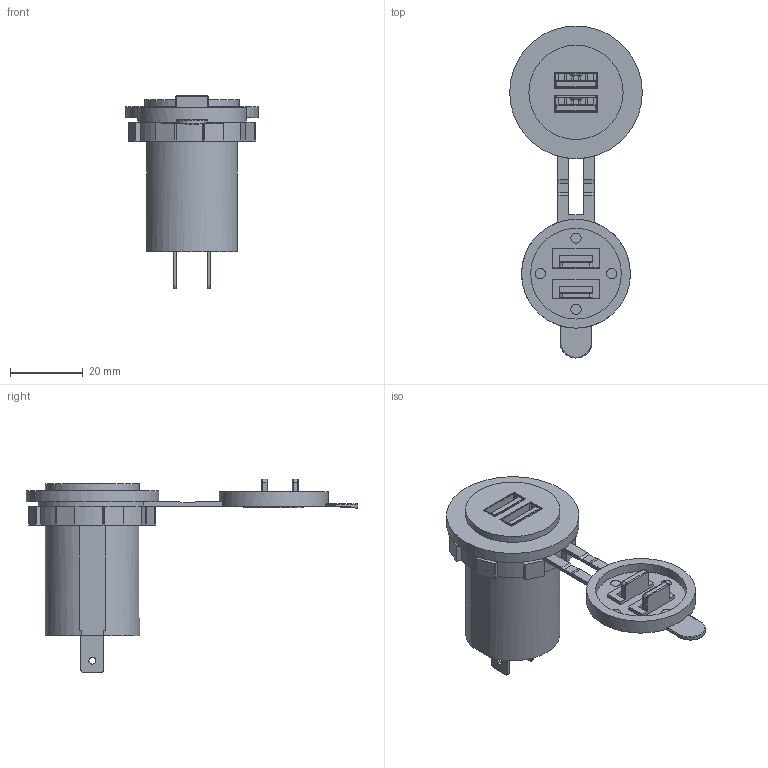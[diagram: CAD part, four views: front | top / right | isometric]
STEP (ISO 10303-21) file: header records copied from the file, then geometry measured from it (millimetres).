
FILE_DESCRIPTION(/* description */ (''),/* implementation_level */ '2;1');
FILE_NAME(/* name */ 'A8-USB2-1-B-4.8A-T.stp',/* time_stamp */ '2025-02-03T13:49:03-08:00',/* author */ ('tylerl'),/* organization */ (''),/* preprocessor_version */ 'ST-DEVELOPER v20',/* originating_system */ 'Autodesk Inventor 2025',/* authorisation */ '');
FILE_SCHEMA (('AUTOMOTIVE_DESIGN { 1 0 10303 214 3 1 1 }'));
Length unit declared in the file: millimetre
Products named in the file (5): A8-USB2-1-B-4.8A-T; Base; USB Port; Ring; Ring_ A8-USB2
Assembly tree (5 placements, depth 2):
  A8-USB2-1-B-4.8A-T
    Base
    USB Port  x2
    Ring
    Ring_ A8-USB2
Bounding box: 36.6 x 91.54 x 53.3 mm (x, y, z)
Volume: 26860.5 mm3; surface area: 15196.8 mm2
Topology: 15 solids, 15 shells, 916 faces, 2549 edges, 1676 vertices
Faces by surface type: plane 686, cylinder 191, bspline 20, torus 13, sphere 6
Full cylindrical faces by diameter (mm): 0.754 x8, 1.75 x4, 1.9 x2, 2.8 x4, 16.7 x1, 25 x1, 26 x2, 28.5 x1, 30 x1, 36.6 x1
Entity records: 22966 total; most frequent: CARTESIAN_POINT 4347, ORIENTED_EDGE 3914, DIRECTION 3791, EDGE_CURVE 1957, LINE 1505, VECTOR 1505, VERTEX_POINT 1290, AXIS2_PLACEMENT_3D 1143
